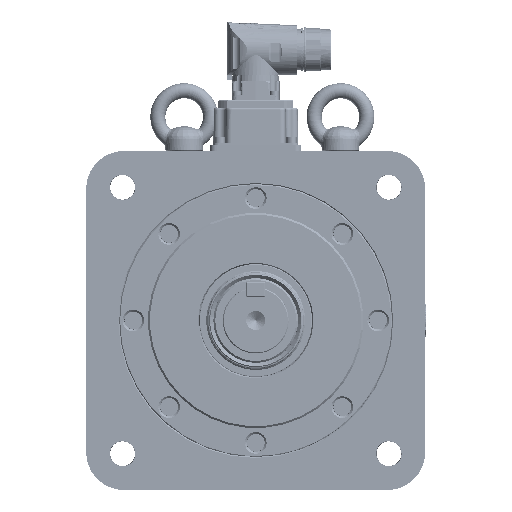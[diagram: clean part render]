
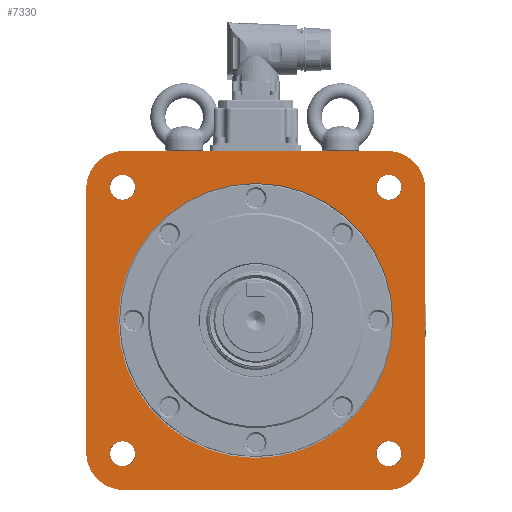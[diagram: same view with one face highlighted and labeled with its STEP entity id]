
A CAD part, front view. The second image highlights one B-rep face of the part: STEP entity #7330.
In plain terms, the highlighted planar face has unit normal (0, -1, 0).
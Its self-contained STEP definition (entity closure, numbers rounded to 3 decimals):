
#7330 = ADVANCED_FACE( '', ( #16293, #16294, #16295, #16296, #16297, #16298 ), #16299, .F. );
#16293 = FACE_BOUND( '', #37937, .T. );
#16294 = FACE_BOUND( '', #37938, .T. );
#16295 = FACE_BOUND( '', #37939, .T. );
#16296 = FACE_BOUND( '', #37940, .T. );
#16297 = FACE_BOUND( '', #37941, .T. );
#16298 = FACE_OUTER_BOUND( '', #37942, .T. );
#16299 = PLANE( '', #37943 );
#37937 = EDGE_LOOP( '', ( #64208 ) );
#37938 = EDGE_LOOP( '', ( #64209 ) );
#37939 = EDGE_LOOP( '', ( #64210 ) );
#37940 = EDGE_LOOP( '', ( #64211 ) );
#37941 = EDGE_LOOP( '', ( #64212 ) );
#37942 = EDGE_LOOP( '', ( #64213, #64214, #64215, #64216, #64217, #64218, #64219, #64220 ) );
#37943 = AXIS2_PLACEMENT_3D( '', #64221, #64222, #64223 );
#64208 = ORIENTED_EDGE( '', *, *, #77961, .T. );
#64209 = ORIENTED_EDGE( '', *, *, #77502, .F. );
#64210 = ORIENTED_EDGE( '', *, *, #79996, .F. );
#64211 = ORIENTED_EDGE( '', *, *, #77951, .F. );
#64212 = ORIENTED_EDGE( '', *, *, #76309, .F. );
#64213 = ORIENTED_EDGE( '', *, *, #79575, .T. );
#64214 = ORIENTED_EDGE( '', *, *, #79997, .T. );
#64215 = ORIENTED_EDGE( '', *, *, #77460, .T. );
#64216 = ORIENTED_EDGE( '', *, *, #77142, .T. );
#64217 = ORIENTED_EDGE( '', *, *, #76203, .T. );
#64218 = ORIENTED_EDGE( '', *, *, #77202, .T. );
#64219 = ORIENTED_EDGE( '', *, *, #79878, .T. );
#64220 = ORIENTED_EDGE( '', *, *, #79998, .T. );
#64221 = CARTESIAN_POINT( '', ( 0., -137., 72.5 ) );
#64222 = DIRECTION( '', ( 0., 1., 0. ) );
#64223 = DIRECTION( '', ( 0., 0., 1. ) );
#76203 = EDGE_CURVE( '', #89404, #89402, #89405, .T. );
#76309 = EDGE_CURVE( '', #89563, #89563, #89564, .F. );
#77142 = EDGE_CURVE( '', #90816, #89404, #90817, .F. );
#77202 = EDGE_CURVE( '', #89402, #90905, #90906, .F. );
#77460 = EDGE_CURVE( '', #91264, #90816, #91265, .T. );
#77502 = EDGE_CURVE( '', #91322, #91322, #91323, .F. );
#77951 = EDGE_CURVE( '', #91946, #91946, #91947, .F. );
#77961 = EDGE_CURVE( '', #91958, #91958, #91959, .T. );
#79575 = EDGE_CURVE( '', #94075, #94073, #94076, .T. );
#79878 = EDGE_CURVE( '', #90905, #94433, #94435, .T. );
#79996 = EDGE_CURVE( '', #94577, #94577, #94578, .F. );
#79997 = EDGE_CURVE( '', #94073, #91264, #94579, .F. );
#79998 = EDGE_CURVE( '', #94433, #94075, #94580, .F. );
#89402 = VERTEX_POINT( '', #115832 );
#89404 = VERTEX_POINT( '', #115835 );
#89405 = LINE( '', #115836, #115837 );
#89563 = VERTEX_POINT( '', #116229 );
#89564 = CIRCLE( '', #116230, 6.745 );
#90816 = VERTEX_POINT( '', #119367 );
#90817 = CIRCLE( '', #119368, 20. );
#90905 = VERTEX_POINT( '', #119496 );
#90906 = CIRCLE( '', #119497, 20. );
#91264 = VERTEX_POINT( '', #120335 );
#91265 = LINE( '', #120336, #120337 );
#91322 = VERTEX_POINT( '', #120646 );
#91323 = CIRCLE( '', #120647, 6.745 );
#91946 = VERTEX_POINT( '', #122281 );
#91947 = CIRCLE( '', #122282, 6.745 );
#91958 = VERTEX_POINT( '', #122295 );
#91959 = CIRCLE( '', #122296, 73. );
#94073 = VERTEX_POINT( '', #127679 );
#94075 = VERTEX_POINT( '', #127682 );
#94076 = LINE( '', #127683, #127684 );
#94433 = VERTEX_POINT( '', #128575 );
#94435 = LINE( '', #128578, #128579 );
#94577 = VERTEX_POINT( '', #129002 );
#94578 = CIRCLE( '', #129003, 6.745 );
#94579 = CIRCLE( '', #129004, 20. );
#94580 = CIRCLE( '', #129005, 20. );
#115832 = CARTESIAN_POINT( '', ( 90., -137., 70. ) );
#115835 = CARTESIAN_POINT( '', ( 90., -137., -70. ) );
#115836 = CARTESIAN_POINT( '', ( 90., -137., -90. ) );
#115837 = VECTOR( '', #137766, 1000. );
#116229 = CARTESIAN_POINT( '', ( -70.711, -137., -63.966 ) );
#116230 = AXIS2_PLACEMENT_3D( '', #137881, #137882, #137883 );
#119367 = CARTESIAN_POINT( '', ( 70., -137., -90. ) );
#119368 = AXIS2_PLACEMENT_3D( '', #138827, #138828, #138829 );
#119496 = CARTESIAN_POINT( '', ( 70., -137., 90. ) );
#119497 = AXIS2_PLACEMENT_3D( '', #138891, #138892, #138893 );
#120335 = CARTESIAN_POINT( '', ( -70., -137., -90. ) );
#120336 = CARTESIAN_POINT( '', ( -90., -137., -90. ) );
#120337 = VECTOR( '', #139188, 1000. );
#120646 = CARTESIAN_POINT( '', ( -70.711, -137., 77.455 ) );
#120647 = AXIS2_PLACEMENT_3D( '', #139243, #139244, #139245 );
#122281 = CARTESIAN_POINT( '', ( 70.711, -137., -63.966 ) );
#122282 = AXIS2_PLACEMENT_3D( '', #139774, #139775, #139776 );
#122295 = CARTESIAN_POINT( '', ( 0., -137., 73. ) );
#122296 = AXIS2_PLACEMENT_3D( '', #139788, #139789, #139790 );
#127679 = CARTESIAN_POINT( '', ( -90., -137., -70. ) );
#127682 = CARTESIAN_POINT( '', ( -90., -137., 70. ) );
#127683 = CARTESIAN_POINT( '', ( -90., -137., 90. ) );
#127684 = VECTOR( '', #141426, 1000. );
#128575 = CARTESIAN_POINT( '', ( -70., -137., 90. ) );
#128578 = CARTESIAN_POINT( '', ( 90., -137., 90. ) );
#128579 = VECTOR( '', #141703, 1000. );
#129002 = CARTESIAN_POINT( '', ( 70.711, -137., 77.455 ) );
#129003 = AXIS2_PLACEMENT_3D( '', #141799, #141800, #141801 );
#129004 = AXIS2_PLACEMENT_3D( '', #141802, #141803, #141804 );
#129005 = AXIS2_PLACEMENT_3D( '', #141805, #141806, #141807 );
#137766 = DIRECTION( '', ( 0., 0., 1. ) );
#137881 = CARTESIAN_POINT( '', ( -70.711, -137., -70.711 ) );
#137882 = DIRECTION( '', ( 0., 1., 0. ) );
#137883 = DIRECTION( '', ( 0., 0., 1. ) );
#138827 = CARTESIAN_POINT( '', ( 70., -137., -70. ) );
#138828 = DIRECTION( '', ( 0., 1., 0. ) );
#138829 = DIRECTION( '', ( 0., 0., 1. ) );
#138891 = CARTESIAN_POINT( '', ( 70., -137., 70. ) );
#138892 = DIRECTION( '', ( 0., 1., 0. ) );
#138893 = DIRECTION( '', ( 0., 0., 1. ) );
#139188 = DIRECTION( '', ( 1., 0., 0. ) );
#139243 = CARTESIAN_POINT( '', ( -70.711, -137., 70.711 ) );
#139244 = DIRECTION( '', ( 0., 1., 0. ) );
#139245 = DIRECTION( '', ( 0., 0., 1. ) );
#139774 = CARTESIAN_POINT( '', ( 70.711, -137., -70.711 ) );
#139775 = DIRECTION( '', ( 0., 1., 0. ) );
#139776 = DIRECTION( '', ( 0., 0., 1. ) );
#139788 = CARTESIAN_POINT( '', ( 0., -137., 0. ) );
#139789 = DIRECTION( '', ( 0., 1., 0. ) );
#139790 = DIRECTION( '', ( 0., 0., 1. ) );
#141426 = DIRECTION( '', ( 0., 0., -1. ) );
#141703 = DIRECTION( '', ( -1., 0., 0. ) );
#141799 = CARTESIAN_POINT( '', ( 70.711, -137., 70.711 ) );
#141800 = DIRECTION( '', ( 0., 1., 0. ) );
#141801 = DIRECTION( '', ( 0., 0., 1. ) );
#141802 = CARTESIAN_POINT( '', ( -70., -137., -70. ) );
#141803 = DIRECTION( '', ( 0., 1., 0. ) );
#141804 = DIRECTION( '', ( 0., 0., 1. ) );
#141805 = CARTESIAN_POINT( '', ( -70., -137., 70. ) );
#141806 = DIRECTION( '', ( 0., 1., 0. ) );
#141807 = DIRECTION( '', ( 0., 0., 1. ) );
